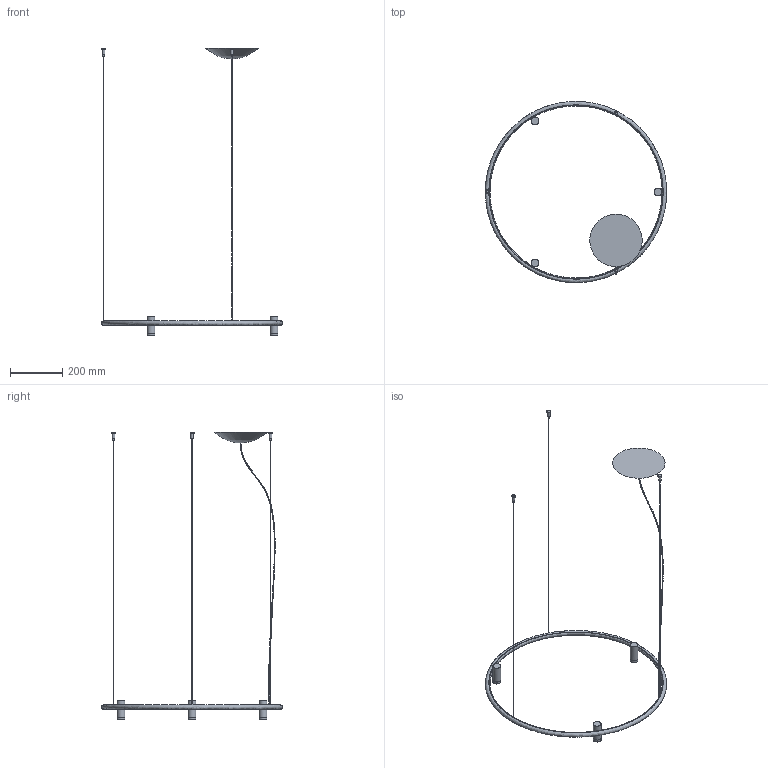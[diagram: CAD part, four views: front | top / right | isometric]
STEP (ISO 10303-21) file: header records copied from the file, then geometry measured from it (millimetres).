
FILE_DESCRIPTION(/* description */ (''),/* implementation_level */ '2;1');
FILE_NAME(/* name */ '1679',/* time_stamp */ '2021-11-26T11:07:48+01:00',/* author */ (''),/* organization */ (''),/* preprocessor_version */ 'ST-DEVELOPER v16.5',/* originating_system */ '',/* authorisation */ '');
FILE_SCHEMA (('CONFIG_CONTROL_DESIGN'));
Length unit declared in the file: millimetre
Products named in the file (1): Document
Bounding box: 692 x 692 x 1095.9 mm (x, y, z)
Volume: 815478.7 mm3; surface area: 344653.4 mm2
Topology: 10 solids, 16 shells, 52 faces, 76 edges, 45 vertices
Faces by surface type: plane 27, cylinder 15, bspline 10
Full cylindrical faces by diameter (mm): 0.8 x3, 5 x3, 10 x3, 15 x3, 30 x3
Entity records: 6374 total; most frequent: CARTESIAN_POINT 5621, ORIENTED_EDGE 170, EDGE_CURVE 88, VERTEX_POINT 58, ADVANCED_FACE 52, FACE_OUTER_BOUND 52, EDGE_LOOP 52, DIRECTION 48
